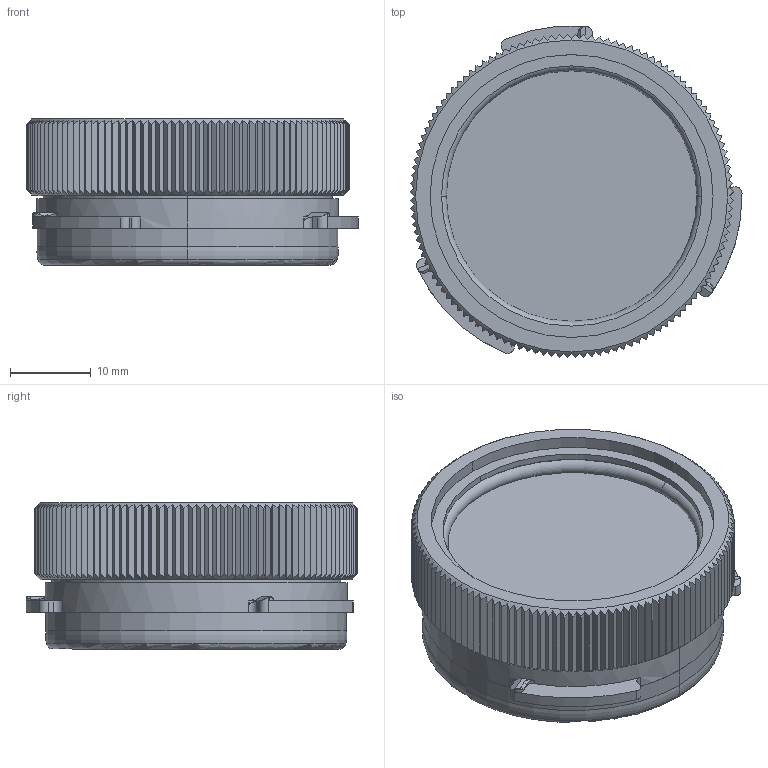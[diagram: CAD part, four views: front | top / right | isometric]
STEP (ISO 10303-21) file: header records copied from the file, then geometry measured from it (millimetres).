
FILE_DESCRIPTION((''),'2;1');
FILE_NAME('92303PROTECTIVE-WINDO_SW0001','2018-11-16T',('RKuepper'),(''),'PRO/ENGINEER BY PARAMETRIC TECHNOLOGY CORPORATION, 2014090','PRO/ENGINEER BY PARAMETRIC TECHNOLOGY CORPORATION, 2014090','');
FILE_SCHEMA(('CONFIG_CONTROL_DESIGN'));
Products named in the file (1): 92303PROTECTIVE-WINDO_SW0001
Bounding box: 41.07 x 41.02 x 18.12 mm (x, y, z)
Volume: 8595.6 mm3; surface area: 8469.7 mm2
Topology: 1 solids, 1 shells, 936 faces, 2723 edges, 1799 vertices
Faces by surface type: cylinder 521, plane 338, cone 65, torus 6, bspline 6
Entity records: 54721 total; most frequent: CARTESIAN_POINT 31827, ORIENTED_EDGE 5434, DIRECTION 3949, EDGE_CURVE 2717, VERTEX_POINT 1799, AXIS2_PLACEMENT_3D 1517, B_SPLINE_CURVE_WITH_KNOTS 1215, EDGE_LOOP 964
